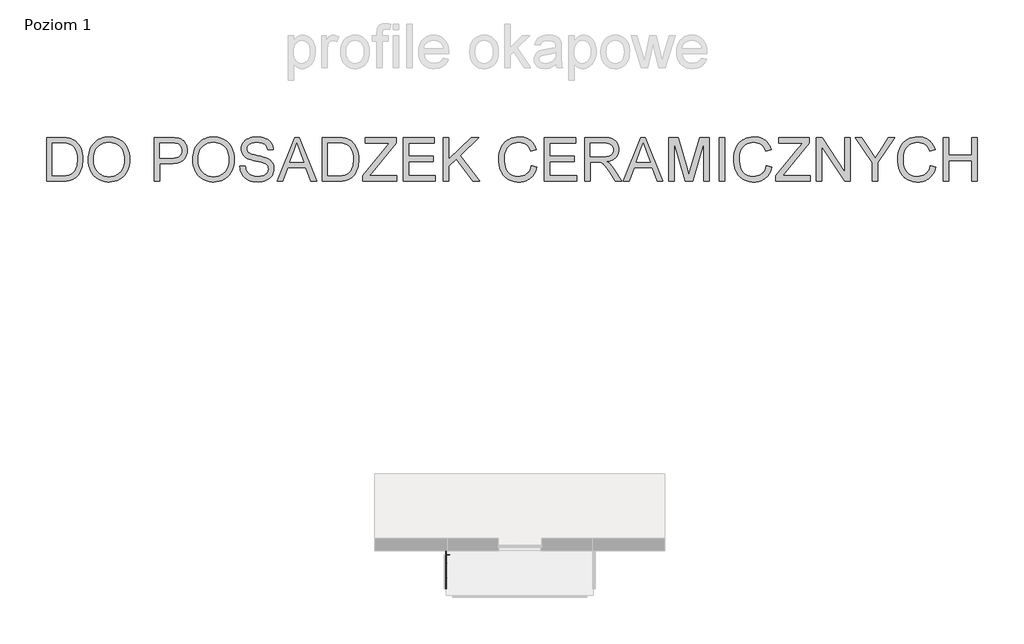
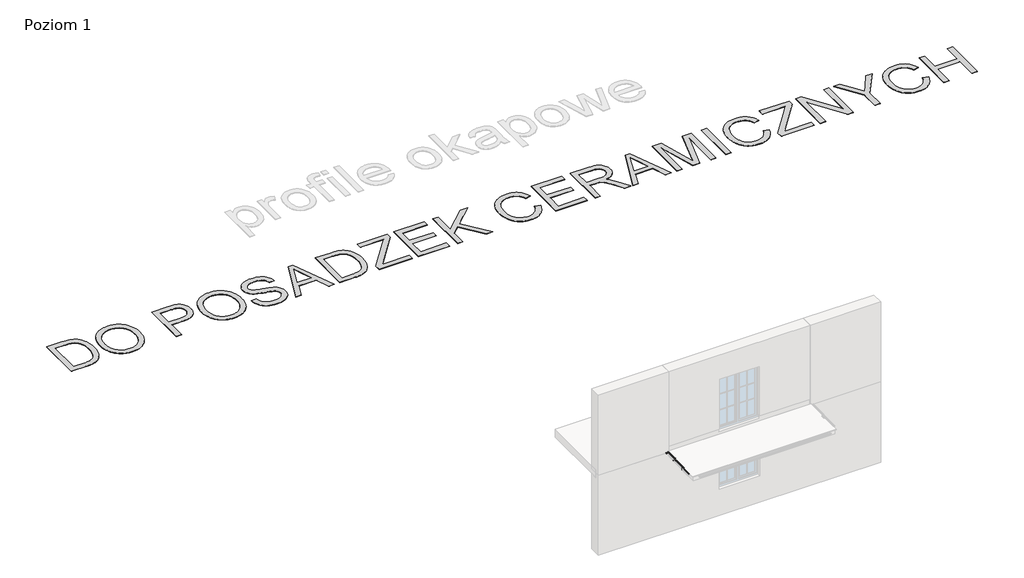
# One storey, part 2 of 4: 5 proxies.
"""IFC4 building model written with IfcOpenShell, lengths in millimetres."""

from ifc_helpers import new_model, si_unit, origin, origin_with_axes, place, context, project, spatial, polyline, outline, extrude, transform, mapped, element, save
from components import generic_models_18ada34d, generic_models_37c944d1, k40_60f0cadf, k40_7df9b5a1

model = new_model("IFC4")

# Units and contexts
model_context = context("Model", 3, world=origin())
ifc_project = project(units=[si_unit("LENGTHUNIT", "METRE", prefix="MILLI")], contexts=[model_context])

# Site, building, storey
site = spatial("IfcSite", under=ifc_project)
building = spatial("IfcBuilding", under=site)
storey = spatial("IfcBuildingStorey", under=building, Name="Poziom 1", Elevation=0.0)

# Proxies
placement = place(None, origin())
generic_models_shape = generic_models_18ada34d(model_context)
element("IfcBuildingElementProxy", 1, Name="Odbojnik - OPK40 : Odbojnik - OPK40", ObjectType="Odbojnik - OPK40 : Odbojnik - OPK40", at=placement, inside=storey, context=model_context, shape_type="MappedRepresentation", body=[
    mapped(generic_models_shape, transform((-97998.8475192, 56398.712448, -137.4476698), x_axis=(0.0, -0.9997639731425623, -0.021725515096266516), y_axis=(1.0, 0.0, 0.0), z_axis=(0.0, -0.021725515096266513, 0.9997639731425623))),
])
generic_models_2_shape = generic_models_37c944d1(model_context)
element("IfcBuildingElementProxy", 2, Name="Odbojnik przyścienny R75 : Odbojnik przyścienny R75", ObjectType="Odbojnik przyścienny R75 : Odbojnik przyścienny R75", at=placement, inside=storey, context=model_context, shape_type="MappedRepresentation", body=[
    mapped(generic_models_2_shape, transform((-103083.2202991, 56399.0336532, -131.671473), x_axis=(0.0, -0.9997639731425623, -0.021725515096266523), y_axis=(1.0, 0.0, 0.0), z_axis=(0.0, -0.021725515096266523, 0.9997639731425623))),
])
element("IfcBuildingElementProxy", 3, Name="1500 mm Arial", ObjectType="1500 mm Arial", at=placement, inside=storey, context=model_context, shape_type="SweptSolid", body=[
    extrude(outline(polyline([(-116809.2331886, 69147.4976149), (-116809.2331886, 70654.3422672), (-116289.4159294, 70654.3422672), (-116134.077757, 70648.9160077), (-116072.0666482, 70642.1331835), (-116020.494191, 70632.6372295), (-115958.0922075, 70614.7259748), (-115900.3807195, 70590.7906525), (-115847.359727, 70560.8312625), (-115799.0292299, 70524.8478049), (-115743.1801445, 70470.9530926), (-115694.8266547, 70410.0686224), (-115653.9687606, 70342.1943943), (-115620.6064622, 70267.3304082), (-115594.6937742, 70186.1664431), (-115576.1847113, 70099.3922774), (-115565.0792736, 70007.0079114), (-115561.377461, 69909.0133449), (-115563.8836571, 69825.722562), (-115571.4022454, 69747.2832228), (-115583.9332258, 69673.6953275), (-115601.4765985, 69604.9588759), (-115622.9517099, 69541.5107281), (-115647.2779069, 69483.7877438), (-115674.4551893, 69431.789923), (-115704.4835571, 69385.5172658), (-115736.6732317, 69344.4179492), (-115770.3344342, 69307.9401501), (-115805.4671648, 69276.0838686), (-115842.0714233, 69248.8491046), (-115881.33133, 69225.4311163), (-115924.431005, 69205.0251619), (-115971.3704483, 69187.6312413), (-116022.1496599, 69173.2493546), (-116076.8146252, 69161.9829685), (-116135.4113292, 69153.9355498), (-116197.9397721, 69149.1070987), (-116264.3999538, 69147.4976149), (-116809.2331886, 69147.4976149)]), holes=[polyline([(-116620.8776071, 69335.8531965), (-116287.5765195, 69335.8531965), (-116214.4829655, 69337.5546507), (-116149.7127418, 69342.6590134), (-116093.2658481, 69351.1662845), (-116045.1422846, 69363.0764641), (-116003.4336634, 69378.090648), (-115966.2315967, 69395.9099322), (-115933.5360844, 69416.5343165), (-115905.3471265, 69439.9638011), (-115870.5937742, 69477.7291872), (-115839.9101166, 69521.4956483), (-115813.2961535, 69571.2631844), (-115790.751885, 69627.0317956), (-115772.8061414, 69688.916445), (-115759.9877531, 69757.0320957), (-115752.2967202, 69831.3787476), (-115749.7330425, 69911.9564009), (-115754.756931, 70021.309324), (-115769.8285965, 70117.2345542), (-115781.1323456, 70160.1617845), (-115794.948039, 70199.7320916), (-115811.2756766, 70235.9454755), (-115830.1152585, 70268.8019362), (-115872.4791695, 70326.0075865), (-115919.1886865, 70372.9125409), (-115970.2438097, 70409.5167994), (-116025.6445389, 70435.820362), (-116073.5151835, 70449.0181286), (-116133.9857865, 70458.4451047), (-116207.0563478, 70464.1012904), (-116292.7268674, 70465.9866856), (-116620.8776071, 70465.9866856), (-116620.8776071, 69335.8531965)])]), origin_with_axes(), (0.0, 0.0, 1.0), 10.0),
    extrude(outline(polyline([(-115373.0218795, 69881.0543133), (-115369.8833862, 69971.9614032), (-115360.4679064, 70057.7986194), (-115344.77544, 70138.5659618), (-115322.8059871, 70214.2634304), (-115294.5595477, 70284.8910254), (-115260.0361217, 70350.4487465), (-115219.2357092, 70410.936594), (-115172.1583101, 70466.3545676), (-115120.1202522, 70515.9324146), (-115064.4378634, 70558.899882), (-115005.1111435, 70595.2569699), (-114942.1400926, 70625.0036781), (-114875.5247107, 70648.1400067), (-114805.2649978, 70664.6659557), (-114731.3609538, 70674.5815251), (-114653.8125789, 70677.8867149), (-114602.4872924, 70676.3347127), (-114552.4380966, 70671.6787062), (-114503.6649914, 70663.9186954), (-114456.167977, 70653.0546802), (-114409.9470532, 70639.0866607), (-114365.00222, 70622.0146368), (-114321.3334776, 70601.8386087), (-114278.9408258, 70578.5585762), (-114238.4278211, 70552.5021842), (-114200.3980198, 70523.9970778), (-114164.851422, 70493.0432568), (-114131.7880277, 70459.6407212), (-114101.2078369, 70423.7894712), (-114073.1108495, 70385.4895066), (-114047.4970656, 70344.7408274), (-114024.3664851, 70301.5434338), (-113986.0607724, 70209.7108908), (-113958.699549, 70111.9002653), (-113942.282815, 70008.1115574), (-113936.8105703, 69898.3447671), (-113942.5702228, 69787.1294414), (-113959.8491802, 69681.9381834), (-113972.8083983, 69631.6015798), (-113988.6474427, 69582.7709931), (-114007.3663133, 69535.4464233), (-114028.9650101, 69489.6278704), (-114053.2049847, 69445.9303872), (-114079.8476885, 69404.9690263), (-114108.8931217, 69366.7437877), (-114140.3412841, 69331.2546715), (-114174.1921758, 69298.5016776), (-114210.4457968, 69268.4848061), (-114249.1021471, 69241.2040569), (-114290.1612267, 69216.65943), (-114376.3490803, 69176.1004401), (-114465.8708646, 69147.1297329), (-114558.7265794, 69129.7473087), (-114654.9162249, 69123.9531672), (-114707.1899571, 69125.5540287), (-114758.0611393, 69130.3566132), (-114807.5297713, 69138.3609207), (-114855.5958532, 69149.5669512), (-114902.2593851, 69163.9747046), (-114947.5203668, 69181.584181), (-114991.3787984, 69202.3953805), (-115033.8346799, 69226.4083029), (-115074.324692, 69253.1889625), (-115112.2855154, 69282.3033735), (-115147.71715, 69313.751536), (-115180.619596, 69347.5334498), (-115210.9928532, 69383.6491151), (-115238.8369217, 69422.0985317), (-115264.1518015, 69462.8816998), (-115286.9374926, 69505.9986192), (-115324.5994118, 69595.8652929), (-115351.5007827, 69688.3301331), (-115367.6416053, 69783.3931399), (-115373.0218795, 69881.0543133)]), holes=[polyline([(-115184.6662979, 69879.2149033), (-115182.312428, 69815.0252433), (-115175.2508181, 69754.3419586), (-115163.4814683, 69697.1650491), (-115147.0043787, 69643.4945149), (-115125.8195491, 69593.330356), (-115099.9269796, 69546.6725723), (-115069.3266702, 69503.5211639), (-115034.0186209, 69463.8761308), (-114995.1582111, 69428.3525256), (-114953.9008201, 69397.5654011), (-114910.2464481, 69371.5147574), (-114864.1950949, 69350.2005943), (-114815.7467606, 69333.6229119), (-114764.9014451, 69321.7817101), (-114711.6591485, 69314.6769891), (-114656.0198709, 69312.3087488), (-114599.3631695, 69314.6999817), (-114545.275894, 69321.8736806), (-114493.7580443, 69333.8298455), (-114444.8096204, 69350.5684763), (-114398.4306223, 69372.089573), (-114354.62105, 69398.3931356), (-114313.3809035, 69429.4791642), (-114274.7101829, 69465.3476588), (-114239.6608006, 69505.6134928), (-114209.2846693, 69549.8915398), (-114183.5817889, 69598.1817998), (-114162.5521596, 69650.4842728), (-114146.1957812, 69706.7989589), (-114134.5126538, 69767.1258579), (-114127.5027773, 69831.46497), (-114125.1661518, 69899.8162951), (-114129.1668685, 69986.0156451), (-114141.1690186, 70066.5588094), (-114161.1726021, 70141.445788), (-114189.177619, 70210.676581), (-114224.8736688, 70273.3429796), (-114267.9503512, 70328.5367752), (-114318.4076661, 70376.2579678), (-114376.2456135, 70416.5065573), (-114439.6707688, 70448.4548093), (-114506.8897071, 70471.2749893), (-114577.9024284, 70484.9670973), (-114652.7089329, 70489.5311333), (-114706.2070224, 70487.3324636), (-114757.8082204, 70480.7364544), (-114807.5125268, 70469.7431057), (-114855.3199417, 70454.3524175), (-114901.2304651, 70434.5643899), (-114945.2440969, 70410.3790228), (-114987.3608372, 70381.7963162), (-115027.580686, 70348.8162702), (-115064.3976263, 70310.6973725), (-115096.3056412, 70266.6981111), (-115123.3047308, 70216.8184859), (-115145.3948949, 70161.0584969), (-115162.5761337, 70099.4181442), (-115174.8484472, 70031.8974276), (-115182.2118352, 69958.4963474), (-115184.6662979, 69879.2149033)])]), origin_with_axes(), (0.0, 0.0, 1.0), 10.0),
    extrude(outline(polyline([(-113089.2104534, 69147.4976149), (-113089.2104534, 70654.3422672), (-112530.7655847, 70654.3422672), (-112400.7192994, 70650.7554177), (-112305.6218037, 70639.9948694), (-112253.2101157, 70628.6939943), (-112205.2360042, 70613.185469), (-112161.6994694, 70593.4692933), (-112122.6005111, 70569.5454673), (-112087.5252621, 70540.9196495), (-112056.0598552, 70507.0974986), (-112028.2042904, 70468.0790145), (-112003.9585676, 70423.8641972), (-111984.3228661, 70375.9130784), (-111970.2973651, 70325.6856897), (-111961.8820644, 70273.1820312), (-111959.0769642, 70218.4021029), (-111960.9709817, 70171.2269852), (-111966.6530341, 70125.9027737), (-111976.1231214, 70082.4294686), (-111989.3812436, 70040.8070697), (-112006.4274007, 70001.0355771), (-112027.2615928, 69963.1149909), (-112051.8838197, 69927.0453109), (-112080.2940816, 69892.8265372), (-112113.6477578, 69861.6140491), (-112153.1002277, 69834.5632262), (-112198.6514913, 69811.6740683), (-112250.3015486, 69792.9465755), (-112308.0503997, 69778.3807477), (-112371.8980444, 69767.976585), (-112441.8444828, 69761.7340874), (-112517.8897149, 69759.6532549), (-112900.8548719, 69759.6532549), (-112900.8548719, 69147.4976149), (-113089.2104534, 69147.4976149)]), holes=[polyline([(-112900.8548719, 69948.0088364), (-112506.853255, 69948.0088364), (-112416.2623137, 69952.3314499), (-112339.8348292, 69965.2992902), (-112306.9323833, 69975.0251705), (-112277.5708015, 69986.9123574), (-112251.750084, 70000.9608511), (-112229.4702307, 70017.1706515), (-112193.5787435, 70055.2694307), (-112167.941967, 70100.4039529), (-112152.5599011, 70152.5742184), (-112147.4325457, 70211.780227), (-112150.4560759, 70255.7421254), (-112159.5266663, 70296.3930859), (-112174.6443171, 70333.7331084), (-112195.8090281, 70367.7621929), (-112221.8941608, 70397.3766935), (-112251.7730766, 70421.4729642), (-112285.4457755, 70440.051005), (-112322.9122574, 70453.1108158), (-112395.5689515, 70462.7677182), (-112511.267839, 70465.9866856), (-112900.8548719, 70465.9866856), (-112900.8548719, 69948.0088364)])]), origin_with_axes(), (0.0, 0.0, 1.0), 10.0),
    extrude(outline(polyline([(-111770.7213827, 69881.0543133), (-111767.5828894, 69971.9614032), (-111758.1674096, 70057.7986194), (-111742.4749432, 70138.5659618), (-111720.5054903, 70214.2634304), (-111692.2590509, 70284.8910254), (-111657.7356249, 70350.4487465), (-111616.9352124, 70410.936594), (-111569.8578133, 70466.3545676), (-111517.8197555, 70515.9324146), (-111462.1373666, 70558.899882), (-111402.8106467, 70595.2569699), (-111339.8395958, 70625.0036781), (-111273.2242139, 70648.1400067), (-111202.964501, 70664.6659557), (-111129.0604571, 70674.5815251), (-111051.5120821, 70677.8867149), (-111000.1867956, 70676.3347127), (-110950.1375998, 70671.6787062), (-110901.3644947, 70663.9186954), (-110853.8674802, 70653.0546802), (-110807.6465564, 70639.0866607), (-110762.7017233, 70622.0146368), (-110719.0329808, 70601.8386087), (-110676.640329, 70578.5585762), (-110636.1273243, 70552.5021842), (-110598.0975231, 70523.9970778), (-110562.5509253, 70493.0432568), (-110529.487531, 70459.6407212), (-110498.9073401, 70423.7894712), (-110470.8103527, 70385.4895066), (-110445.1965688, 70344.7408274), (-110422.0659884, 70301.5434338), (-110383.7602756, 70209.7108908), (-110356.3990522, 70111.9002653), (-110339.9823182, 70008.1115574), (-110334.5100735, 69898.3447671), (-110340.269726, 69787.1294414), (-110357.5486835, 69681.9381834), (-110370.5079016, 69631.6015798), (-110386.3469459, 69582.7709931), (-110405.0658165, 69535.4464233), (-110426.6645133, 69489.6278704), (-110450.9044879, 69445.9303872), (-110477.5471918, 69404.9690263), (-110506.5926249, 69366.7437877), (-110538.0407873, 69331.2546715), (-110571.8916791, 69298.5016776), (-110608.1453001, 69268.4848061), (-110646.8016503, 69241.2040569), (-110687.8607299, 69216.65943), (-110774.0485836, 69176.1004401), (-110863.5703678, 69147.1297329), (-110956.4260827, 69129.7473087), (-111052.6157281, 69123.9531672), (-111104.8894604, 69125.5540287), (-111155.7606425, 69130.3566132), (-111205.2292745, 69138.3609207), (-111253.2953565, 69149.5669512), (-111299.9588883, 69163.9747046), (-111345.21987, 69181.584181), (-111389.0783016, 69202.3953805), (-111431.5341831, 69226.4083029), (-111472.0241952, 69253.1889625), (-111509.9850186, 69282.3033735), (-111545.4166533, 69313.751536), (-111578.3190992, 69347.5334498), (-111608.6923564, 69383.6491151), (-111636.5364249, 69422.0985317), (-111661.8513047, 69462.8816998), (-111684.6369958, 69505.9986192), (-111722.2989151, 69595.8652929), (-111749.200286, 69688.3301331), (-111765.3411085, 69783.3931399), (-111770.7213827, 69881.0543133)]), holes=[polyline([(-111582.3658012, 69879.2149033), (-111580.0119312, 69815.0252433), (-111572.9503213, 69754.3419586), (-111561.1809716, 69697.1650491), (-111544.7038819, 69643.4945149), (-111523.5190523, 69593.330356), (-111497.6264828, 69546.6725723), (-111467.0261734, 69503.5211639), (-111431.7181241, 69463.8761308), (-111392.8577143, 69428.3525256), (-111351.6003234, 69397.5654011), (-111307.9459513, 69371.5147574), (-111261.8945981, 69350.2005943), (-111213.4462638, 69333.6229119), (-111162.6009483, 69321.7817101), (-111109.3586518, 69314.6769891), (-111053.7193741, 69312.3087488), (-110997.0626728, 69314.6999817), (-110942.9753972, 69321.8736806), (-110891.4575475, 69333.8298455), (-110842.5091236, 69350.5684763), (-110796.1301255, 69372.089573), (-110752.3205532, 69398.3931356), (-110711.0804068, 69429.4791642), (-110672.4096861, 69465.3476588), (-110637.3603038, 69505.6134928), (-110606.9841725, 69549.8915398), (-110581.2812922, 69598.1817998), (-110560.2516628, 69650.4842728), (-110543.8952844, 69706.7989589), (-110532.212157, 69767.1258579), (-110525.2022805, 69831.46497), (-110522.865655, 69899.8162951), (-110526.8663717, 69986.0156451), (-110538.8685218, 70066.5588094), (-110558.8721053, 70141.445788), (-110586.8771222, 70210.676581), (-110622.5731721, 70273.3429796), (-110665.6498544, 70328.5367752), (-110716.1071693, 70376.2579678), (-110773.9451168, 70416.5065573), (-110837.370272, 70448.4548093), (-110904.5892103, 70471.2749893), (-110975.6019317, 70484.9670973), (-111050.4084361, 70489.5311333), (-111103.9065256, 70487.3324636), (-111155.5077236, 70480.7364544), (-111205.2120301, 70469.7431057), (-111253.019445, 70454.3524175), (-111298.9299683, 70434.5643899), (-111342.9436002, 70410.3790228), (-111385.0603405, 70381.7963162), (-111425.2801892, 70348.8162702), (-111462.0971295, 70310.6973725), (-111494.0051444, 70266.6981111), (-111521.004234, 70216.8184859), (-111543.0943982, 70161.0584969), (-111560.275637, 70099.4181442), (-111572.5479504, 70031.8974276), (-111579.9113385, 69958.4963474), (-111582.3658012, 69879.2149033)])]), origin_with_axes(), (0.0, 0.0, 1.0), 10.0),
    extrude(outline(polyline([(-110146.154492, 69665.4754641), (-109957.7989105, 69665.4754641), (-109949.1766762, 69610.6495505), (-109936.1858432, 69560.9509923), (-109918.8264116, 69516.3797893), (-109897.0983813, 69476.9359416), (-109869.8981062, 69441.8262037), (-109836.1219405, 69410.25733), (-109795.7698842, 69382.2293205), (-109748.8419372, 69357.7421752), (-109697.0625464, 69337.8650511), (-109642.1561586, 69323.6671054), (-109584.1227739, 69315.1483379), (-109522.9623922, 69312.3087488), (-109468.8607462, 69314.4585592), (-109418.024053, 69320.9079904), (-109370.4523125, 69331.6570425), (-109326.1455247, 69346.7057153), (-109286.1958393, 69365.5136823), (-109251.695406, 69387.5406168), (-109222.6442247, 69412.7865187), (-109199.0422954, 69441.2513881), (-109180.7746551, 69471.7051195), (-109167.7263406, 69502.9176075), (-109159.8973519, 69534.8888522), (-109157.2876889, 69567.6188534), (-109159.242062, 69600.2108989), (-109165.1051813, 69630.6646303), (-109174.8770468, 69658.9800477), (-109188.5576585, 69685.1571509), (-109208.2853305, 69709.3338957), (-109236.1983769, 69731.648238), (-109272.2967977, 69752.1001777), (-109316.5805929, 69770.6897148), (-109416.0466873, 69800.2582301), (-109590.8366203, 69842.6106448), (-109688.9576462, 69866.6954192), (-109770.8688717, 69890.2053779), (-109836.5702967, 69913.1405211), (-109886.0619214, 69935.5008486), (-109936.3582879, 69965.5062238), (-109979.8258449, 69998.8685223), (-110016.4645924, 70035.5877439), (-110046.2745303, 70075.6638888), (-110069.3706218, 70118.6830896), (-110085.86783, 70164.2314791), (-110095.766155, 70212.3090573), (-110099.0655966, 70262.9158243), (-110094.9844057, 70319.0063323), (-110082.7408331, 70373.2344376), (-110062.3348786, 70425.6001404), (-110033.7665425, 70476.1034405), (-109997.3577212, 70522.6864981), (-109953.4303118, 70563.2914734), (-109901.984314, 70597.9183662), (-109843.019728, 70626.5671765), (-109778.5254157, 70649.0194746), (-109710.4902392, 70665.0568303), (-109638.9141985, 70674.6792437), (-109563.7972936, 70677.8867149), (-109481.8515792, 70674.5297917), (-109404.8722717, 70664.459022), (-109332.8593711, 70647.674406), (-109265.8128775, 70624.1759436), (-109204.9743926, 70594.1705683), (-109151.585518, 70557.8652139), (-109105.6462539, 70515.2598804), (-109067.1566001, 70466.3545676), (-109036.4154609, 70412.5748185), (-109013.7217403, 70355.3461756), (-108999.0754384, 70294.668639), (-108992.4765551, 70230.5422087), (-109180.8321366, 70230.5422087), (-109193.432095, 70290.6449297), (-109215.4130442, 70342.9301583), (-109246.7749843, 70387.3978944), (-109287.5179152, 70424.0481382), (-109338.4005937, 70452.6969486), (-109400.1817763, 70473.1603845), (-109472.8614629, 70485.4384461), (-109556.4396537, 70489.5311333), (-109642.684989, 70485.4844314), (-109716.3763511, 70473.3443255), (-109777.5137402, 70453.1108158), (-109803.3746948, 70439.9590345), (-109826.0971562, 70424.7839022), (-109863.1152819, 70390.731825), (-109889.5568003, 70353.3228246), (-109905.4217114, 70312.556901), (-109910.7100151, 70268.4340542), (-109906.9622172, 70230.4732309), (-109895.7188238, 70196.0532717), (-109876.9798346, 70165.1741767), (-109850.7452499, 70137.8359459), (-109809.4504959, 70111.9462505), (-109744.4273533, 70085.7806436), (-109655.6758219, 70059.3391252), (-109543.1959019, 70032.6216953), (-109429.1064981, 70006.5710515), (-109335.5265156, 69982.1298915), (-109262.4559543, 69959.2982152), (-109209.8948143, 69938.0760226), (-109152.1488373, 69905.9093406), (-109102.5192569, 69869.741942), (-109061.006073, 69829.5738266), (-109027.6092857, 69785.4049946), (-109001.9380202, 69737.4653721), (-108983.601402, 69685.9848854), (-108972.5994311, 69630.9635345), (-108968.9321074, 69572.4013194), (-108973.1512541, 69513.4827186), (-108985.8086939, 69456.2885646), (-109006.9044271, 69400.8188575), (-109036.4384535, 69347.0735973), (-109073.8934392, 69297.1336165), (-109118.75205, 69253.0797475), (-109171.0142859, 69214.9119905), (-109230.680147, 69182.6303455), (-109296.0136901, 69156.95908), (-109365.278972, 69138.6224618), (-109438.4759927, 69127.6204909), (-109515.6047523, 69123.9531672), (-109611.9553461, 69127.9078987), (-109700.1435581, 69139.772093), (-109780.1693883, 69159.5457503), (-109852.0328368, 69187.2288704), (-109916.1707634, 69222.8674387), (-109973.020028, 69266.5074404), (-110022.5806305, 69318.1488754), (-110064.8525711, 69377.7917439), (-110098.9046482, 69443.5046653), (-110123.8056608, 69513.3562591), (-110139.5556087, 69587.3465254), (-110146.154492, 69665.4754641)])), origin_with_axes(), (0.0, 0.0, 1.0), 10.0),
    extrude(outline(polyline([(-108861.8784468, 69147.4976149), (-108260.3913847, 70654.3422672), (-108099.9948348, 70654.3422672), (-107498.5077727, 69147.4976149), (-107697.5319321, 69147.4976149), (-107870.0685878, 69618.3865688), (-108490.6855137, 69618.3865688), (-108662.8542874, 69147.4976149), (-108861.8784468, 69147.4976149)]), holes=[polyline([(-108421.5236986, 69806.7421503), (-107938.8625209, 69806.7421503), (-108074.6109771, 70177.1993194), (-108180.1931098, 70465.9866856), (-108274.0030185, 70209.572935), (-108421.5236986, 69806.7421503)])]), origin_with_axes(), (0.0, 0.0, 1.0), 10.0),
    extrude(outline(polyline([(-107297.2763213, 69147.4976149), (-107297.2763213, 70654.3422672), (-106777.4590622, 70654.3422672), (-106622.1208897, 70648.9160077), (-106560.1097809, 70642.1331835), (-106508.5373237, 70632.6372295), (-106446.1353402, 70614.7259748), (-106388.4238523, 70590.7906525), (-106335.4028597, 70560.8312625), (-106287.0723626, 70524.8478049), (-106231.2232772, 70470.9530926), (-106182.8697874, 70410.0686224), (-106142.0118934, 70342.1943943), (-106108.6495949, 70267.3304082), (-106082.7369069, 70186.1664431), (-106064.227844, 70099.3922774), (-106053.1224063, 70007.0079114), (-106049.4205937, 69909.0133449), (-106051.9267898, 69825.722562), (-106059.4453781, 69747.2832228), (-106071.9763585, 69673.6953275), (-106089.5197312, 69604.9588759), (-106110.9948426, 69541.5107281), (-106135.3210396, 69483.7877438), (-106162.498322, 69431.789923), (-106192.5266898, 69385.5172658), (-106224.7163644, 69344.4179492), (-106258.377567, 69307.9401501), (-106293.5102975, 69276.0838686), (-106330.114556, 69248.8491046), (-106369.3744627, 69225.4311163), (-106412.4741377, 69205.0251619), (-106459.413581, 69187.6312413), (-106510.1927927, 69173.2493546), (-106564.8577579, 69161.9829685), (-106623.4544619, 69153.9355498), (-106685.9829048, 69149.1070987), (-106752.4430865, 69147.4976149), (-107297.2763213, 69147.4976149)]), holes=[polyline([(-107108.9207398, 69335.8531965), (-106775.6196522, 69335.8531965), (-106702.5260983, 69337.5546507), (-106637.7558745, 69342.6590134), (-106581.3089808, 69351.1662845), (-106533.1854174, 69363.0764641), (-106491.4767962, 69378.090648), (-106454.2747294, 69395.9099322), (-106421.5792171, 69416.5343165), (-106393.3902592, 69439.9638011), (-106358.636907, 69477.7291872), (-106327.9532493, 69521.4956483), (-106301.3392862, 69571.2631844), (-106278.7950177, 69627.0317956), (-106260.8492741, 69688.916445), (-106248.0308858, 69757.0320957), (-106240.3398529, 69831.3787476), (-106237.7761752, 69911.9564009), (-106242.8000637, 70021.309324), (-106257.8717292, 70117.2345542), (-106269.1754783, 70160.1617845), (-106282.9911717, 70199.7320916), (-106299.3188093, 70235.9454755), (-106318.1583912, 70268.8019362), (-106360.5223022, 70326.0075865), (-106407.2318193, 70372.9125409), (-106458.2869424, 70409.5167994), (-106513.6876716, 70435.820362), (-106561.5583162, 70449.0181286), (-106622.0289192, 70458.4451047), (-106695.0994805, 70464.1012904), (-106780.7700001, 70465.9866856), (-107108.9207398, 70465.9866856), (-107108.9207398, 69335.8531965)])]), origin_with_axes(), (0.0, 0.0, 1.0), 10.0),
    extrude(outline(polyline([(-105908.1539075, 69147.4976149), (-105908.1539075, 69342.8429544), (-105137.4411277, 70286.460272), (-104991.0240936, 70465.9866856), (-105813.9761168, 70465.9866856), (-105813.9761168, 70654.3422672), (-104754.4759707, 70654.3422672), (-104754.4759707, 70465.9866856), (-105598.0293856, 69433.3419252), (-105677.4918966, 69335.8531965), (-104730.931523, 69335.8531965), (-104730.931523, 69147.4976149), (-105908.1539075, 69147.4976149)])), origin_with_axes(), (0.0, 0.0, 1.0), 10.0),
    extrude(outline(polyline([(-104519.0314938, 69147.4976149), (-104519.0314938, 70654.3422672), (-103435.9869, 70654.3422672), (-103435.9869, 70465.9866856), (-104330.6759122, 70465.9866856), (-104330.6759122, 70018.6421795), (-103483.0757953, 70018.6421795), (-103483.0757953, 69830.286598), (-104330.6759122, 69830.286598), (-104330.6759122, 69335.8531965), (-103412.4424523, 69335.8531965), (-103412.4424523, 69147.4976149), (-104519.0314938, 69147.4976149)])), origin_with_axes(), (0.0, 0.0, 1.0), 10.0),
    extrude(outline(polyline([(-103129.90908, 69147.4976149), (-103129.90908, 70654.3422672), (-102941.5534984, 70654.3422672), (-102941.5534984, 69916.7388668), (-102169.0013086, 70654.3422672), (-101905.5978, 70654.3422672), (-102554.1737575, 70034.8289873), (-101882.0533523, 69147.4976149), (-102112.3474813, 69147.4976149), (-102687.7149218, 69907.541817), (-102941.5534984, 69665.4754641), (-102941.5534984, 69147.4976149), (-103129.90908, 69147.4976149)])), origin_with_axes(), (0.0, 0.0, 1.0), 10.0),
    extrude(outline(polyline([(-100092.6753278, 69683.1337999), (-99904.3197463, 69634.5733765), (-99921.4090146, 69574.1573811), (-99941.5907909, 69517.43745), (-99964.8650753, 69464.4135834), (-99991.2318676, 69415.0857812), (-100020.691168, 69369.4540434), (-100053.2429764, 69327.51837), (-100088.8872929, 69289.2787611), (-100127.6241173, 69254.7352165), (-100169.0338344, 69224.0831737), (-100212.6968287, 69197.51807), (-100258.6131002, 69175.0399052), (-100306.782649, 69156.6486796), (-100357.205475, 69142.3443929), (-100409.8815781, 69132.1270453), (-100464.8109585, 69125.9966368), (-100521.9936162, 69123.9531672), (-100580.8288687, 69125.4994212), (-100636.8532728, 69130.1381833), (-100690.0668286, 69137.8694533), (-100740.4695361, 69148.6932314), (-100788.0613951, 69162.6095175), (-100832.8424058, 69179.6183116), (-100874.8125681, 69199.7196138), (-100913.971882, 69222.9134239), (-100950.5991332, 69249.0387938), (-100984.9731071, 69277.9347748), (-101017.0938038, 69309.6013672), (-101046.9612233, 69344.0385709), (-101074.5753655, 69381.2463858), (-101099.9362306, 69421.224812), (-101123.0438184, 69463.9738494), (-101143.898129, 69509.4934982), (-101178.421555, 69605.0278538), (-101203.081145, 69704.0111031), (-101217.876899, 69806.4432462), (-101222.808817, 69912.3242829), (-101217.2331055, 70025.9308415), (-101200.505971, 70132.0418045), (-101187.9606202, 70182.2864376), (-101172.6274136, 70230.6571719), (-101154.5063512, 70277.1540071), (-101133.5974331, 70321.7769435), (-101110.1190893, 70364.1494768), (-101084.2897495, 70403.8951026), (-101056.1094138, 70441.0138211), (-101025.5780823, 70475.5056323), (-100992.6957549, 70507.370536), (-100957.4624316, 70536.6085324), (-100919.8781125, 70563.2196214), (-100879.9427975, 70587.2038031), (-100795.6518353, 70626.877577), (-100707.2222007, 70655.2159869), (-100614.6538937, 70672.2190329), (-100517.9469142, 70677.8867149), (-100462.9629263, 70676.053053), (-100410.2149712, 70670.5520676), (-100359.7030488, 70661.3837585), (-100311.4271592, 70648.5481257), (-100265.3873023, 70632.0451694), (-100221.5834782, 70611.8748894), (-100180.0156868, 70588.0372857), (-100140.6839282, 70560.5323584), (-100103.9215953, 70529.6992487), (-100070.0620814, 70495.8770977), (-100039.1053863, 70459.0659056), (-100011.0515101, 70419.2656723), (-99985.9004528, 70376.4763977), (-99963.6522143, 70330.6980819), (-99944.3067947, 70281.9307249), (-99927.864194, 70230.1743267), (-100116.2197755, 70185.2927233), (-100145.8802613, 70259.3634638), (-100181.5188296, 70322.6506633), (-100223.1354803, 70375.1543218), (-100270.7302135, 70416.8744393), (-100324.5789405, 70448.6617429), (-100384.957573, 70471.3669598), (-100451.8661108, 70484.99009), (-100525.3045541, 70489.5311333), (-100609.8024499, 70484.4957485), (-100687.0806615, 70469.3895941), (-100757.139189, 70444.2126701), (-100819.9780323, 70408.9649764), (-100874.8039459, 70365.2330042), (-100920.8236842, 70314.6032446), (-100958.0372473, 70257.0756976), (-100986.4446351, 70192.6503632), (-101007.4483977, 70124.2473047), (-101022.4510854, 70054.7865855), (-101031.4526979, 69984.2682056), (-101034.4532354, 69912.6921649), (-101030.9008749, 69822.7450171), (-101020.2437934, 69738.6839812), (-101002.4819908, 69660.5090572), (-100977.6154672, 69588.2202451), (-100945.2418516, 69523.2545841), (-100904.9587731, 69467.049113), (-100856.7662318, 69419.6038319), (-100800.6642275, 69380.9187409), (-100739.3773864, 69350.9018693), (-100675.6303344, 69329.4612468), (-100609.4230716, 69316.5968733), (-100540.7555979, 69312.3087488), (-100458.8673651, 69318.1488754), (-100420.3805854, 69325.4490338), (-100383.5320302, 69335.6692555), (-100348.3216996, 69348.8095405), (-100314.7495934, 69364.8698888), (-100282.8157118, 69383.8503005), (-100252.5200547, 69405.7507755), (-100224.2305041, 69430.5253287), (-100198.314942, 69458.1279746), (-100174.7733684, 69488.5587134), (-100153.6057832, 69521.817545), (-100134.8121866, 69557.9044695), (-100118.3925785, 69596.8194868), (-100092.6753278, 69683.1337999)])), origin_with_axes(), (0.0, 0.0, 1.0), 10.0),
    extrude(outline(polyline([(-99645.3308217, 69147.4976149), (-99645.3308217, 70654.3422672), (-98562.2862279, 70654.3422672), (-98562.2862279, 70465.9866856), (-99456.9752401, 70465.9866856), (-99456.9752401, 70018.6421795), (-98609.3751232, 70018.6421795), (-98609.3751232, 69830.286598), (-99456.9752401, 69830.286598), (-99456.9752401, 69335.8531965), (-98538.7417802, 69335.8531965), (-98538.7417802, 69147.4976149), (-99645.3308217, 69147.4976149)])), origin_with_axes(), (0.0, 0.0, 1.0), 10.0),
    extrude(outline(polyline([(-98256.2084079, 69147.4976149), (-98256.2084079, 70654.3422672), (-97606.8966864, 70654.3422672), (-97513.6960822, 70651.8015821), (-97432.3826649, 70644.1795271), (-97362.9564346, 70631.4761019), (-97305.4173913, 70613.6913067), (-97256.4201081, 70589.4570803), (-97212.6191581, 70557.4053614), (-97174.0145412, 70517.5361502), (-97140.6062575, 70469.8494466), (-97113.647405, 70416.9089282), (-97094.3910819, 70361.2782728), (-97082.8372879, 70302.9574802), (-97078.9860233, 70241.9465506), (-97080.5811366, 70202.4567177), (-97085.3664767, 70164.5533758), (-97093.3420434, 70128.2365251), (-97104.5078367, 70093.5061655), (-97118.8638568, 70060.362297), (-97136.4101035, 70028.8049196), (-97157.1465769, 69998.8340333), (-97181.073277, 69970.4496381), (-97208.3339076, 69944.1173347), (-97239.0721728, 69920.3027237), (-97273.2880724, 69899.005805), (-97310.9816065, 69880.2265788), (-97352.1527751, 69863.965045), (-97396.8015782, 69850.2212036), (-97496.5320878, 69830.286598), (-97434.4520011, 69789.727608), (-97389.4784272, 69749.720441), (-97312.3151787, 69658.2097947), (-97236.8073992, 69555.8466296), (-96985.5439965, 69147.4976149), (-97204.4337837, 69147.4976149), (-97400.5148871, 69459.8294288), (-97478.9657226, 69579.0231953), (-97542.1494552, 69666.5791101), (-97594.8025658, 69726.8657721), (-97618.956318, 69748.4213577), (-97641.6615349, 69764.2517798), (-97686.0373006, 69786.1867438), (-97731.2408008, 69800.1202744), (-97775.2946697, 69805.0866813), (-97840.5017533, 69806.7421503), (-98067.8528263, 69806.7421503), (-98067.8528263, 69147.4976149), (-98256.2084079, 69147.4976149)]), holes=[polyline([(-98067.8528263, 69995.0977318), (-97646.2600599, 69995.0977318), (-97582.3290669, 69996.7646971), (-97525.1808982, 70001.765593), (-97474.8155538, 70010.1004194), (-97431.2330337, 70021.7691765), (-97393.4561513, 70037.1052571), (-97360.5077201, 70056.4420545), (-97332.3877401, 70079.7795686), (-97309.0962113, 70107.1177993), (-97290.828571, 70137.1116783), (-97277.7802564, 70168.4161368), (-97269.9512677, 70201.0311749), (-97267.3416048, 70234.9567927), (-97272.3195081, 70283.1263414), (-97287.2532178, 70326.835321), (-97312.1427341, 70366.0837313), (-97346.9880568, 70400.8715725), (-97368.3453311, 70416.1329271), (-97392.5939279, 70429.3594345), (-97449.7650892, 70449.7079074), (-97518.5015407, 70461.9169911), (-97598.8032825, 70465.9866856), (-98067.8528263, 70465.9866856), (-98067.8528263, 69995.0977318)])]), origin_with_axes(), (0.0, 0.0, 1.0), 10.0),
    extrude(outline(polyline([(-96924.8434673, 69147.4976149), (-96323.3564052, 70654.3422672), (-96162.9598553, 70654.3422672), (-95561.4727932, 69147.4976149), (-95760.4969526, 69147.4976149), (-95933.0336083, 69618.3865688), (-96553.6505342, 69618.3865688), (-96725.8193079, 69147.4976149), (-96924.8434673, 69147.4976149)]), holes=[polyline([(-96484.4887191, 69806.7421503), (-96001.8275414, 69806.7421503), (-96137.5759976, 70177.1993194), (-96243.1581303, 70465.9866856), (-96336.968039, 70209.572935), (-96484.4887191, 69806.7421503)])]), origin_with_axes(), (0.0, 0.0, 1.0), 10.0),
    extrude(outline(polyline([(-95360.2413418, 69147.4976149), (-95360.2413418, 70654.3422672), (-95036.1373041, 70654.3422672), (-94727.8521921, 69592.2669471), (-94665.6801349, 69370.434104), (-94598.3577298, 69610.6610469), (-94295.2229658, 70654.3422672), (-93971.1189281, 70654.3422672), (-93971.1189281, 69147.4976149), (-94159.4745096, 69147.4976149), (-94159.4745096, 70465.9866856), (-94538.0250826, 69147.4976149), (-94793.3351873, 69147.4976149), (-95171.8857603, 70465.9866856), (-95171.8857603, 69147.4976149), (-95360.2413418, 69147.4976149)])), origin_with_axes(), (0.0, 0.0, 1.0), 10.0),
    extrude(outline(polyline([(-93617.9522127, 69147.4976149), (-93617.9522127, 70654.3422672), (-93429.5966312, 70654.3422672), (-93429.5966312, 69147.4976149), (-93617.9522127, 69147.4976149)])), origin_with_axes(), (0.0, 0.0, 1.0), 10.0),
    extrude(outline(polyline([(-91993.385322, 69683.1337999), (-91805.0297405, 69634.5733765), (-91822.1190088, 69574.1573811), (-91842.3007851, 69517.43745), (-91865.5750694, 69464.4135834), (-91891.9418618, 69415.0857812), (-91921.4011622, 69369.4540434), (-91953.9529706, 69327.51837), (-91989.5972871, 69289.2787611), (-92028.3341115, 69254.7352165), (-92069.7438286, 69224.0831737), (-92113.4068229, 69197.51807), (-92159.3230944, 69175.0399052), (-92207.4926432, 69156.6486796), (-92257.9154691, 69142.3443929), (-92310.5915723, 69132.1270453), (-92365.5209527, 69125.9966368), (-92422.7036104, 69123.9531672), (-92481.5388629, 69125.4994212), (-92537.563267, 69130.1381833), (-92590.7768228, 69137.8694533), (-92641.1795302, 69148.6932314), (-92688.7713893, 69162.6095175), (-92733.5524, 69179.6183116), (-92775.5225623, 69199.7196138), (-92814.6818762, 69222.9134239), (-92851.3091274, 69249.0387938), (-92885.6831013, 69277.9347748), (-92917.803798, 69309.6013672), (-92947.6712175, 69344.0385709), (-92975.2853597, 69381.2463858), (-93000.6462248, 69421.224812), (-93023.7538126, 69463.9738494), (-93044.6081232, 69509.4934982), (-93079.1315492, 69605.0278538), (-93103.7911392, 69704.0111031), (-93118.5868932, 69806.4432462), (-93123.5188112, 69912.3242829), (-93117.9430997, 70025.9308415), (-93101.2159652, 70132.0418045), (-93088.6706144, 70182.2864376), (-93073.3374078, 70230.6571719), (-93055.2163454, 70277.1540071), (-93034.3074273, 70321.7769435), (-93010.8290834, 70364.1494768), (-92984.9997437, 70403.8951026), (-92956.819408, 70441.0138211), (-92926.2880765, 70475.5056323), (-92893.4057491, 70507.370536), (-92858.1724258, 70536.6085324), (-92820.5881067, 70563.2196214), (-92780.6527917, 70587.2038031), (-92696.3618295, 70626.877577), (-92607.9321949, 70655.2159869), (-92515.3638879, 70672.2190329), (-92418.6569084, 70677.8867149), (-92363.6729205, 70676.053053), (-92310.9249654, 70670.5520676), (-92260.413043, 70661.3837585), (-92212.1371534, 70648.5481257), (-92166.0972965, 70632.0451694), (-92122.2934724, 70611.8748894), (-92080.725681, 70588.0372857), (-92041.3939224, 70560.5323584), (-92004.6315895, 70529.6992487), (-91970.7720756, 70495.8770977), (-91939.8153805, 70459.0659056), (-91911.7615043, 70419.2656723), (-91886.610447, 70376.4763977), (-91864.3622085, 70330.6980819), (-91845.0167889, 70281.9307249), (-91828.5741881, 70230.1743267), (-92016.9297697, 70185.2927233), (-92046.5902555, 70259.3634638), (-92082.2288238, 70322.6506633), (-92123.8454745, 70375.1543218), (-92171.4402076, 70416.8744393), (-92225.2889347, 70448.6617429), (-92285.6675671, 70471.3669598), (-92352.576105, 70484.99009), (-92426.0145483, 70489.5311333), (-92510.5124441, 70484.4957485), (-92587.7906557, 70469.3895941), (-92657.8491831, 70444.2126701), (-92720.6880264, 70408.9649764), (-92775.51394, 70365.2330042), (-92821.5336784, 70314.6032446), (-92858.7472414, 70257.0756976), (-92887.1546293, 70192.6503632), (-92908.1583919, 70124.2473047), (-92923.1610795, 70054.7865855), (-92932.1626921, 69984.2682056), (-92935.1632296, 69912.6921649), (-92931.6108691, 69822.7450171), (-92920.9537876, 69738.6839812), (-92903.191985, 69660.5090572), (-92878.3254614, 69588.2202451), (-92845.9518458, 69523.2545841), (-92805.6687673, 69467.049113), (-92757.476226, 69419.6038319), (-92701.3742217, 69380.9187409), (-92640.0873806, 69350.9018693), (-92576.3403286, 69329.4612468), (-92510.1330658, 69316.5968733), (-92441.4655921, 69312.3087488), (-92359.5773592, 69318.1488754), (-92321.0905796, 69325.4490338), (-92284.2420244, 69335.6692555), (-92249.0316938, 69348.8095405), (-92215.4595876, 69364.8698888), (-92183.525706, 69383.8503005), (-92153.2300489, 69405.7507755), (-92124.9404983, 69430.5253287), (-92099.0249362, 69458.1279746), (-92075.4833625, 69488.5587134), (-92054.3157774, 69521.817545), (-92035.5221808, 69557.9044695), (-92019.1025727, 69596.8194868), (-91993.385322, 69683.1337999)])), origin_with_axes(), (0.0, 0.0, 1.0), 10.0),
    extrude(outline(polyline([(-91663.7630543, 69147.4976149), (-91663.7630543, 69342.8429544), (-90893.0502744, 70286.460272), (-90746.6332403, 70465.9866856), (-91569.5852635, 70465.9866856), (-91569.5852635, 70654.3422672), (-90510.0851174, 70654.3422672), (-90510.0851174, 70465.9866856), (-91353.6385324, 69433.3419252), (-91433.1010433, 69335.8531965), (-90486.5406697, 69335.8531965), (-90486.5406697, 69147.4976149), (-91663.7630543, 69147.4976149)])), origin_with_axes(), (0.0, 0.0, 1.0), 10.0),
    extrude(outline(polyline([(-90274.6406405, 69147.4976149), (-90274.6406405, 70654.3422672), (-90073.0413072, 70654.3422672), (-89285.7738375, 69460.5651928), (-89285.7738375, 70654.3422672), (-89097.4182559, 70654.3422672), (-89097.4182559, 69147.4976149), (-89299.0175893, 69147.4976149), (-90086.285059, 70341.6425713), (-90086.285059, 69147.4976149), (-90274.6406405, 69147.4976149)])), origin_with_axes(), (0.0, 0.0, 1.0), 10.0),
    extrude(outline(polyline([(-88343.9959298, 69147.4976149), (-88343.9959298, 69785.7728766), (-88932.6071221, 70654.3422672), (-88710.406397, 70654.3422672), (-88396.2351731, 70190.4430713), (-88235.4707413, 69953.8949484), (-88074.3384274, 70207.365643), (-87789.2298811, 70654.3422672), (-87567.029156, 70654.3422672), (-88155.6403483, 69785.7728766), (-88155.6403483, 69147.4976149), (-88343.9959298, 69147.4976149)])), origin_with_axes(), (0.0, 0.0, 1.0), 10.0),
    extrude(outline(polyline([(-86342.7178761, 69683.1337999), (-86154.3622945, 69634.5733765), (-86171.4515628, 69574.1573811), (-86191.6333392, 69517.43745), (-86214.9076235, 69464.4135834), (-86241.2744159, 69415.0857812), (-86270.7337163, 69369.4540434), (-86303.2855247, 69327.51837), (-86338.9298411, 69289.2787611), (-86377.6666656, 69254.7352165), (-86419.0763827, 69224.0831737), (-86462.739377, 69197.51807), (-86508.6556485, 69175.0399052), (-86556.8251973, 69156.6486796), (-86607.2480232, 69142.3443929), (-86659.9241264, 69132.1270453), (-86714.8535068, 69125.9966368), (-86772.0361644, 69123.9531672), (-86830.871417, 69125.4994212), (-86886.8958211, 69130.1381833), (-86940.1093769, 69137.8694533), (-86990.5120843, 69148.6932314), (-87038.1039434, 69162.6095175), (-87082.884954, 69179.6183116), (-87124.8551164, 69199.7196138), (-87164.0144303, 69222.9134239), (-87200.6416814, 69249.0387938), (-87235.0156554, 69277.9347748), (-87267.1363521, 69309.6013672), (-87297.0037716, 69344.0385709), (-87324.6179138, 69381.2463858), (-87349.9787789, 69421.224812), (-87373.0863667, 69463.9738494), (-87393.9406773, 69509.4934982), (-87428.4641033, 69605.0278538), (-87453.1236933, 69704.0111031), (-87467.9194473, 69806.4432462), (-87472.8513652, 69912.3242829), (-87467.2756538, 70025.9308415), (-87450.5485193, 70132.0418045), (-87438.0031684, 70182.2864376), (-87422.6699618, 70230.6571719), (-87404.5488995, 70277.1540071), (-87383.6399814, 70321.7769435), (-87360.1616375, 70364.1494768), (-87334.3322978, 70403.8951026), (-87306.1519621, 70441.0138211), (-87275.6206306, 70475.5056323), (-87242.7383032, 70507.370536), (-87207.5049799, 70536.6085324), (-87169.9206608, 70563.2196214), (-87129.9853457, 70587.2038031), (-87045.6943836, 70626.877577), (-86957.264749, 70655.2159869), (-86864.696442, 70672.2190329), (-86767.9894625, 70677.8867149), (-86713.0054746, 70676.053053), (-86660.2575195, 70670.5520676), (-86609.7455971, 70661.3837585), (-86561.4697074, 70648.5481257), (-86515.4298506, 70632.0451694), (-86471.6260264, 70611.8748894), (-86430.0582351, 70588.0372857), (-86390.7264764, 70560.5323584), (-86353.9641436, 70529.6992487), (-86320.1046297, 70495.8770977), (-86289.1479346, 70459.0659056), (-86261.0940584, 70419.2656723), (-86235.943001, 70376.4763977), (-86213.6947626, 70330.6980819), (-86194.349343, 70281.9307249), (-86177.9067422, 70230.1743267), (-86366.2623238, 70185.2927233), (-86395.9228096, 70259.3634638), (-86431.5613779, 70322.6506633), (-86473.1780286, 70375.1543218), (-86520.7727617, 70416.8744393), (-86574.6214888, 70448.6617429), (-86635.0001212, 70471.3669598), (-86701.9086591, 70484.99009), (-86775.3471024, 70489.5311333), (-86859.8449982, 70484.4957485), (-86937.1232098, 70469.3895941), (-87007.1817372, 70444.2126701), (-87070.0205805, 70408.9649764), (-87124.8464941, 70365.2330042), (-87170.8662325, 70314.6032446), (-87208.0797955, 70257.0756976), (-87236.4871833, 70192.6503632), (-87257.490946, 70124.2473047), (-87272.4936336, 70054.7865855), (-87281.4952462, 69984.2682056), (-87284.4957837, 69912.6921649), (-87280.9434232, 69822.7450171), (-87270.2863417, 69738.6839812), (-87252.5245391, 69660.5090572), (-87227.6580155, 69588.2202451), (-87195.2843999, 69523.2545841), (-87155.0013214, 69467.049113), (-87106.80878, 69419.6038319), (-87050.7067758, 69380.9187409), (-86989.4199346, 69350.9018693), (-86925.6728827, 69329.4612468), (-86859.4656199, 69316.5968733), (-86790.7981462, 69312.3087488), (-86708.9099133, 69318.1488754), (-86670.4231337, 69325.4490338), (-86633.5745785, 69335.6692555), (-86598.3642479, 69348.8095405), (-86564.7921417, 69364.8698888), (-86532.8582601, 69383.8503005), (-86502.562603, 69405.7507755), (-86474.2730524, 69430.5253287), (-86448.3574902, 69458.1279746), (-86424.8159166, 69488.5587134), (-86403.6483315, 69521.817545), (-86384.8547349, 69557.9044695), (-86368.4351268, 69596.8194868), (-86342.7178761, 69683.1337999)])), origin_with_axes(), (0.0, 0.0, 1.0), 10.0),
    extrude(outline(polyline([(-85895.3733699, 69147.4976149), (-85895.3733699, 70654.3422672), (-85707.0177884, 70654.3422672), (-85707.0177884, 70042.1866272), (-84906.5065669, 70042.1866272), (-84906.5065669, 70654.3422672), (-84718.1509854, 70654.3422672), (-84718.1509854, 69147.4976149), (-84906.5065669, 69147.4976149), (-84906.5065669, 69853.8310457), (-85707.0177884, 69853.8310457), (-85707.0177884, 69147.4976149), (-85895.3733699, 69147.4976149)])), origin_with_axes(), (0.0, 0.0, 1.0), 10.0),
])
k40_shape = k40_60f0cadf(model_context)
element("IfcBuildingElementProxy", 4, Name="K40 Profil okapowy prosty z rynną : K40", ObjectType="K40 Profil okapowy prosty z rynną : K40", at=placement, inside=storey, context=model_context, shape_type="MappedRepresentation", body=[
    mapped(k40_shape, transform((-103032.4147313, 56264.4836257, -79.2723366), x_axis=(-1.4861025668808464e-12, -0.9997639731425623, -0.02172551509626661), y_axis=(1.0, -1.4857485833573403e-12, 0.0), z_axis=(0.0, -0.021725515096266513, 0.9997639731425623))),
])
k40_2_shape = k40_7df9b5a1(model_context)
element("IfcBuildingElementProxy", 5, Name="K40 Profil okapowy prosty z rynną : K40", ObjectType="K40 Profil okapowy prosty z rynną : K40", at=placement, inside=storey, context=model_context, shape_type="MappedRepresentation", body=[
    mapped(k40_2_shape, transform((-103032.4147313, 56401.2645056, -76.3), x_axis=(-1.4861025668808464e-12, -0.9997639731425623, -0.02172551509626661), y_axis=(1.0, -1.4857485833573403e-12, 0.0), z_axis=(0.0, -0.021725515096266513, 0.9997639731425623))),
])

save(model, "model.ifc")
